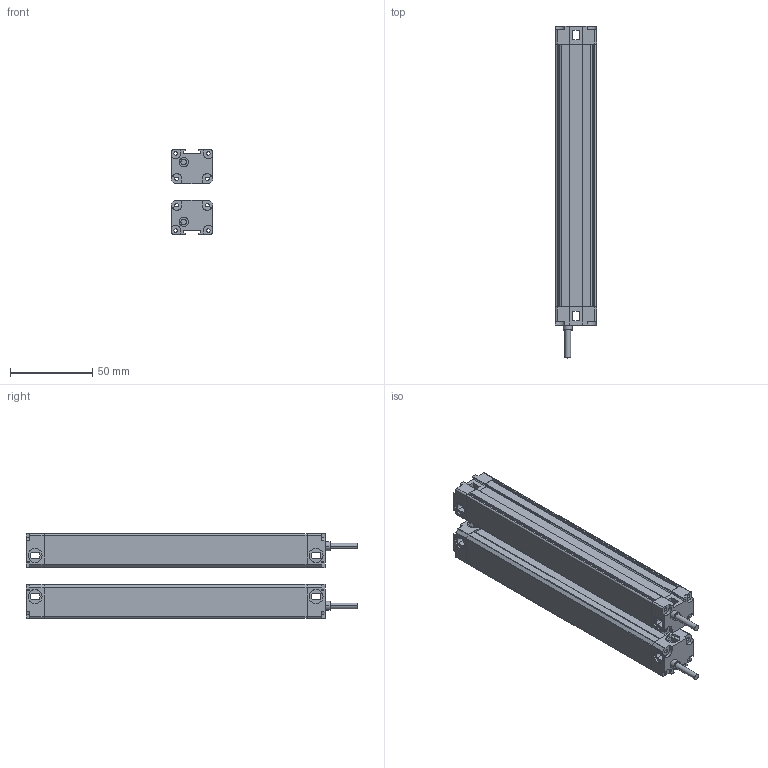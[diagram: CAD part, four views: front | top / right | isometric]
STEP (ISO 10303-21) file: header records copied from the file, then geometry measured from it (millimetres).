
FILE_DESCRIPTION (( 'STEP AP214' ), '1' );
FILE_NAME ('MTC1610.STEP', '2022-12-02T08:06:06', ( '' ), ( '' ), 'SwSTEP 2.0', 'SolidWorks 2018', '' );
FILE_SCHEMA (( 'AUTOMOTIVE_DESIGN' ));
Length unit declared in the file: millimetre
Products named in the file (5): P01^MTC; MTC1610; P02^MTC; 噩砃P02^MTC; MTC waike^MTC
Assembly tree (6 placements, depth 2):
  MTC1610
    MTC waike^MTC  x2
    P01^MTC  x2
    P02^MTC
    噩砃P02^MTC
Bounding box: 25 x 202 x 51.4 mm (x, y, z)
Volume: 67516.6 mm3; surface area: 85244.5 mm2
Topology: 8 solids, 8 shells, 480 faces, 1396 edges, 924 vertices
Faces by surface type: plane 272, cylinder 208
Entity records: 10886 total; most frequent: DIRECTION 1881, CARTESIAN_POINT 1878, ORIENTED_EDGE 1846, EDGE_CURVE 923, AXIS2_PLACEMENT_3D 637, VERTEX_POINT 610, VECTOR 607, LINE 607
